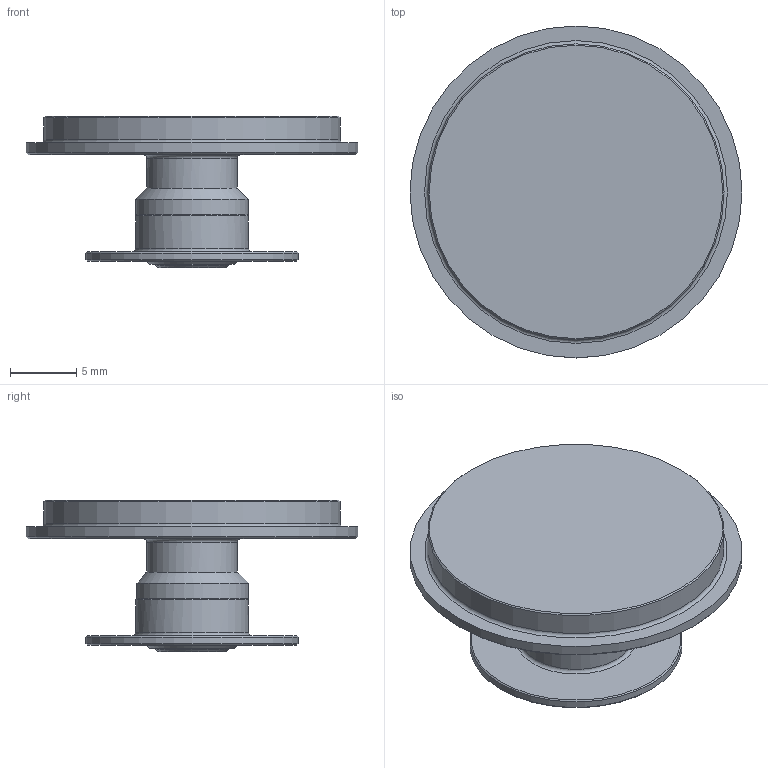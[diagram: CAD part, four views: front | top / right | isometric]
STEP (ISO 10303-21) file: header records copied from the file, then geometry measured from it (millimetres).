
FILE_DESCRIPTION(/* description */ (''),/* implementation_level */ '2;1');
FILE_NAME(/* name */ 'LA-3061-2515-A_STEP.stp',/* time_stamp */ '2013-03-22T07:01:36+00:00',/* author */ (''),/* organization */ (''),/* preprocessor_version */ 'ST-DEVELOPER v11',/* originating_system */ 'SIEMENS PLM Software NX 7.5',/* authorisation */ '');
FILE_SCHEMA (('AUTOMOTIVE_DESIGN { 1 0 10303 214 1 1 1 1 }'));
Length unit declared in the file: millimetre
Products named in the file (1): rt1317170l4q
Bounding box: 25 x 25 x 11.4 mm (x, y, z)
Volume: 1522.7 mm3; surface area: 1798.4 mm2
Topology: 1 solids, 1 shells, 65 faces, 252 edges, 226 vertices
Faces by surface type: plane 41, cone 11, cylinder 9, torus 4
Full cylindrical faces by diameter (mm): 2.6 x1, 5.525 x1, 6.8 x1, 8.5 x1, 16 x1, 22.3 x1, 25 x1
Entity records: 3534 total; most frequent: CARTESIAN_POINT 1242, ORIENTED_EDGE 446, EDGE_CURVE 223, VERTEX_POINT 219, DIRECTION 210, B_SPLINE_CURVE_WITH_KNOTS 183, EDGE_LOOP 124, AXIS2_PLACEMENT_3D 104
